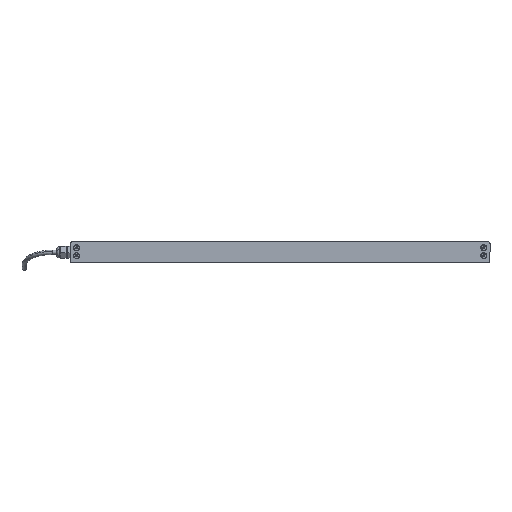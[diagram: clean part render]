
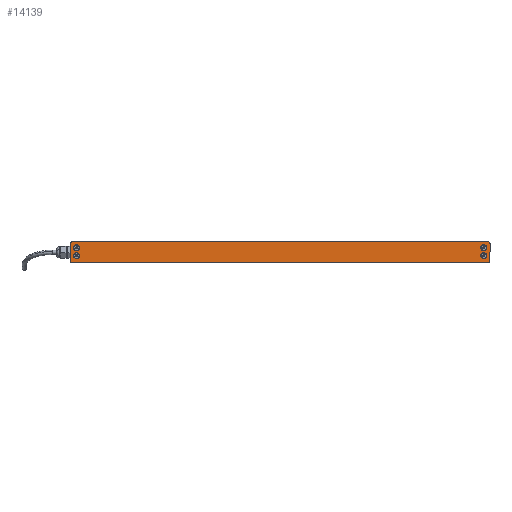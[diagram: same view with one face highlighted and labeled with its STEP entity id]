
A CAD part, left-side view. The second image highlights one B-rep face of the part: STEP entity #14139.
In plain terms, the highlighted planar face has unit normal (-1, 0, 0) as drawn and (0, 0, -1) by its records, which use the part's own axes.
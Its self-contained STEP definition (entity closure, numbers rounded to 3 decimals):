
#9 = DIRECTION ( 'NONE',  ( -1., 0., 0. ) ) ;
#222 = VECTOR ( 'NONE', #1705, 1000. ) ;
#258 = AXIS2_PLACEMENT_3D ( 'NONE', #6369, #10013, #2715 ) ;
#271 = ORIENTED_EDGE ( 'NONE', *, *, #15338, .F. ) ;
#294 = DIRECTION ( 'NONE',  ( 0., 0., -1. ) ) ;
#390 = CIRCLE ( 'NONE', #10517, 5.6 ) ;
#471 = CARTESIAN_POINT ( 'NONE',  ( 381.3, -6.3, 0. ) ) ;
#758 = VERTEX_POINT ( 'NONE', #14701 ) ;
#921 = CARTESIAN_POINT ( 'NONE',  ( 386.9, 8.5, 0. ) ) ;
#925 = CARTESIAN_POINT ( 'NONE',  ( -381.3, 8.5, 0. ) ) ;
#934 = CIRCLE ( 'NONE', #9813, 5.6 ) ;
#937 = CIRCLE ( 'NONE', #2976, 5.6 ) ;
#1113 = VECTOR ( 'NONE', #14749, 1000. ) ;
#1166 = DIRECTION ( 'NONE',  ( -1., 0., 0. ) ) ;
#1249 = AXIS2_PLACEMENT_3D ( 'NONE', #8396, #9441, #1166 ) ;
#1324 = EDGE_CURVE ( 'NONE', #4868, #4088, #7282, .T. ) ;
#1383 = CARTESIAN_POINT ( 'NONE',  ( -389., -20., 0. ) ) ;
#1391 = VERTEX_POINT ( 'NONE', #6051 ) ;
#1397 = CARTESIAN_POINT ( 'NONE',  ( -381.3, -6.3, 0. ) ) ;
#1593 = PLANE ( 'NONE',  #258 ) ;
#1705 = DIRECTION ( 'NONE',  ( -1., 0., 0. ) ) ;
#2215 = EDGE_CURVE ( 'NONE', #3329, #9217, #3301, .T. ) ;
#2432 = ORIENTED_EDGE ( 'NONE', *, *, #1324, .F. ) ;
#2493 = CARTESIAN_POINT ( 'NONE',  ( -393., -16., 0. ) ) ;
#2715 = DIRECTION ( 'NONE',  ( -1., 0., 0. ) ) ;
#2745 = CARTESIAN_POINT ( 'NONE',  ( -389., -20., 0. ) ) ;
#2802 = FACE_BOUND ( 'NONE', #6673, .T. ) ;
#2960 = DIRECTION ( 'NONE',  ( 0., 0., 1. ) ) ;
#2976 = AXIS2_PLACEMENT_3D ( 'NONE', #3209, #12835, #9325 ) ;
#3168 = CARTESIAN_POINT ( 'NONE',  ( -386.9, 8.5, 0. ) ) ;
#3209 = CARTESIAN_POINT ( 'NONE',  ( 381.3, 8.5, 0. ) ) ;
#3301 = CIRCLE ( 'NONE', #1249, 5.6 ) ;
#3312 = DIRECTION ( 'NONE',  ( 0., 0., -1. ) ) ;
#3324 = DIRECTION ( 'NONE',  ( 0., 0., -1. ) ) ;
#3329 = VERTEX_POINT ( 'NONE', #9012 ) ;
#3435 = EDGE_LOOP ( 'NONE', ( #10810, #6072 ) ) ;
#3669 = EDGE_CURVE ( 'NONE', #4088, #4868, #390, .T. ) ;
#3862 = EDGE_CURVE ( 'NONE', #5666, #14111, #11021, .T. ) ;
#3911 = FACE_BOUND ( 'NONE', #3435, .T. ) ;
#4088 = VERTEX_POINT ( 'NONE', #4577 ) ;
#4313 = ORIENTED_EDGE ( 'NONE', *, *, #15268, .F. ) ;
#4336 = CARTESIAN_POINT ( 'NONE',  ( 386.9, -6.3, 0. ) ) ;
#4432 = CARTESIAN_POINT ( 'NONE',  ( 393., 16., 0. ) ) ;
#4577 = CARTESIAN_POINT ( 'NONE',  ( -375.7, 8.5, 0. ) ) ;
#4868 = VERTEX_POINT ( 'NONE', #3168 ) ;
#4894 = CIRCLE ( 'NONE', #9953, 5.6 ) ;
#4904 = CARTESIAN_POINT ( 'NONE',  ( 389., 16., 0. ) ) ;
#4923 = VERTEX_POINT ( 'NONE', #4432 ) ;
#5080 = EDGE_CURVE ( 'NONE', #11075, #12689, #6152, .T. ) ;
#5102 = CARTESIAN_POINT ( 'NONE',  ( -386.9, -6.3, 0. ) ) ;
#5131 = DIRECTION ( 'NONE',  ( -1., 0., 0. ) ) ;
#5154 = DIRECTION ( 'NONE',  ( -1., 0., 0. ) ) ;
#5254 = EDGE_CURVE ( 'NONE', #758, #14043, #11821, .T. ) ;
#5267 = CARTESIAN_POINT ( 'NONE',  ( 381.3, -6.3, 0. ) ) ;
#5305 = VECTOR ( 'NONE', #10521, 1000. ) ;
#5504 = AXIS2_PLACEMENT_3D ( 'NONE', #5267, #10101, #13798 ) ;
#5657 = ORIENTED_EDGE ( 'NONE', *, *, #9227, .F. ) ;
#5664 = CIRCLE ( 'NONE', #8461, 4. ) ;
#5666 = VERTEX_POINT ( 'NONE', #9228 ) ;
#5770 = CARTESIAN_POINT ( 'NONE',  ( 393., -16., 0. ) ) ;
#6020 = CARTESIAN_POINT ( 'NONE',  ( -389., 16., 0. ) ) ;
#6051 = CARTESIAN_POINT ( 'NONE',  ( 389., 20., 0. ) ) ;
#6072 = ORIENTED_EDGE ( 'NONE', *, *, #3862, .F. ) ;
#6137 = VERTEX_POINT ( 'NONE', #4336 ) ;
#6152 = LINE ( 'NONE', #1383, #1113 ) ;
#6229 = EDGE_CURVE ( 'NONE', #14111, #5666, #4894, .T. ) ;
#6347 = CARTESIAN_POINT ( 'NONE',  ( 389., -16., 0. ) ) ;
#6369 = CARTESIAN_POINT ( 'NONE',  ( 389., 16., 0. ) ) ;
#6673 = EDGE_LOOP ( 'NONE', ( #7249, #13520 ) ) ;
#6890 = EDGE_CURVE ( 'NONE', #14349, #758, #12195, .T. ) ;
#7089 = DIRECTION ( 'NONE',  ( 0., 0., -1. ) ) ;
#7249 = ORIENTED_EDGE ( 'NONE', *, *, #2215, .F. ) ;
#7282 = CIRCLE ( 'NONE', #9329, 5.6 ) ;
#7284 = EDGE_CURVE ( 'NONE', #14043, #11075, #5664, .T. ) ;
#7432 = AXIS2_PLACEMENT_3D ( 'NONE', #6020, #15582, #9 ) ;
#7641 = FACE_BOUND ( 'NONE', #10868, .T. ) ;
#7780 = AXIS2_PLACEMENT_3D ( 'NONE', #6347, #9350, #14134 ) ;
#7902 = ORIENTED_EDGE ( 'NONE', *, *, #5254, .F. ) ;
#8270 = EDGE_CURVE ( 'NONE', #1391, #14349, #13735, .T. ) ;
#8396 = CARTESIAN_POINT ( 'NONE',  ( 381.3, 8.5, 0. ) ) ;
#8404 = EDGE_LOOP ( 'NONE', ( #14861, #5657, #4313, #13052, #14548, #7902, #12192, #10779 ) ) ;
#8422 = CARTESIAN_POINT ( 'NONE',  ( -389., 20., 0. ) ) ;
#8461 = AXIS2_PLACEMENT_3D ( 'NONE', #9648, #2960, #11117 ) ;
#9012 = CARTESIAN_POINT ( 'NONE',  ( 375.7, 8.5, 0. ) ) ;
#9217 = VERTEX_POINT ( 'NONE', #921 ) ;
#9227 = EDGE_CURVE ( 'NONE', #14690, #4923, #15174, .T. ) ;
#9228 = CARTESIAN_POINT ( 'NONE',  ( -375.7, -6.3, 0. ) ) ;
#9261 = DIRECTION ( 'NONE',  ( -1., 0., 0. ) ) ;
#9325 = DIRECTION ( 'NONE',  ( -1., 0., 0. ) ) ;
#9329 = AXIS2_PLACEMENT_3D ( 'NONE', #10567, #7089, #12034 ) ;
#9350 = DIRECTION ( 'NONE',  ( 0., 0., 1. ) ) ;
#9441 = DIRECTION ( 'NONE',  ( 0., 0., -1. ) ) ;
#9451 = CARTESIAN_POINT ( 'NONE',  ( 393., -16., 0. ) ) ;
#9648 = CARTESIAN_POINT ( 'NONE',  ( -389., -16., 0. ) ) ;
#9740 = DIRECTION ( 'NONE',  ( 0., 0., 1. ) ) ;
#9813 = AXIS2_PLACEMENT_3D ( 'NONE', #471, #3312, #5154 ) ;
#9940 = ORIENTED_EDGE ( 'NONE', *, *, #11733, .F. ) ;
#9953 = AXIS2_PLACEMENT_3D ( 'NONE', #10286, #12931, #9261 ) ;
#10013 = DIRECTION ( 'NONE',  ( 0., 0., -1. ) ) ;
#10101 = DIRECTION ( 'NONE',  ( 0., 0., -1. ) ) ;
#10286 = CARTESIAN_POINT ( 'NONE',  ( -381.3, -6.3, 0. ) ) ;
#10517 = AXIS2_PLACEMENT_3D ( 'NONE', #925, #3324, #12952 ) ;
#10521 = DIRECTION ( 'NONE',  ( 0., 1., 0. ) ) ;
#10567 = CARTESIAN_POINT ( 'NONE',  ( -381.3, 8.5, 0. ) ) ;
#10779 = ORIENTED_EDGE ( 'NONE', *, *, #8270, .F. ) ;
#10810 = ORIENTED_EDGE ( 'NONE', *, *, #6229, .F. ) ;
#10868 = EDGE_LOOP ( 'NONE', ( #2432, #11169 ) ) ;
#10985 = DIRECTION ( 'NONE',  ( -1., 0., 0. ) ) ;
#11021 = CIRCLE ( 'NONE', #11530, 5.6 ) ;
#11075 = VERTEX_POINT ( 'NONE', #2745 ) ;
#11117 = DIRECTION ( 'NONE',  ( -1., 0., 0. ) ) ;
#11169 = ORIENTED_EDGE ( 'NONE', *, *, #3669, .F. ) ;
#11181 = EDGE_CURVE ( 'NONE', #4923, #1391, #14569, .T. ) ;
#11530 = AXIS2_PLACEMENT_3D ( 'NONE', #1397, #294, #5131 ) ;
#11733 = EDGE_CURVE ( 'NONE', #12613, #6137, #12296, .T. ) ;
#11821 = LINE ( 'NONE', #13081, #12224 ) ;
#11822 = EDGE_CURVE ( 'NONE', #9217, #3329, #937, .T. ) ;
#12034 = DIRECTION ( 'NONE',  ( -1., 0., 0. ) ) ;
#12058 = CIRCLE ( 'NONE', #7780, 4. ) ;
#12192 = ORIENTED_EDGE ( 'NONE', *, *, #6890, .F. ) ;
#12195 = CIRCLE ( 'NONE', #7432, 4. ) ;
#12224 = VECTOR ( 'NONE', #13000, 1000. ) ;
#12296 = CIRCLE ( 'NONE', #5504, 5.6 ) ;
#12437 = FACE_OUTER_BOUND ( 'NONE', #8404, .T. ) ;
#12547 = CARTESIAN_POINT ( 'NONE',  ( -389., 20., 0. ) ) ;
#12613 = VERTEX_POINT ( 'NONE', #14611 ) ;
#12689 = VERTEX_POINT ( 'NONE', #14843 ) ;
#12835 = DIRECTION ( 'NONE',  ( 0., 0., -1. ) ) ;
#12931 = DIRECTION ( 'NONE',  ( 0., 0., -1. ) ) ;
#12952 = DIRECTION ( 'NONE',  ( -1., 0., 0. ) ) ;
#13000 = DIRECTION ( 'NONE',  ( 0., -1., 0. ) ) ;
#13052 = ORIENTED_EDGE ( 'NONE', *, *, #5080, .F. ) ;
#13081 = CARTESIAN_POINT ( 'NONE',  ( -393., -16., 0. ) ) ;
#13520 = ORIENTED_EDGE ( 'NONE', *, *, #11822, .F. ) ;
#13735 = LINE ( 'NONE', #12547, #222 ) ;
#13798 = DIRECTION ( 'NONE',  ( -1., 0., 0. ) ) ;
#14043 = VERTEX_POINT ( 'NONE', #2493 ) ;
#14111 = VERTEX_POINT ( 'NONE', #5102 ) ;
#14134 = DIRECTION ( 'NONE',  ( 1., 0., 0. ) ) ;
#14139 = ADVANCED_FACE ( 'NONE', ( #2802, #14732, #7641, #3911, #12437 ), #1593, .T. ) ;
#14349 = VERTEX_POINT ( 'NONE', #8422 ) ;
#14548 = ORIENTED_EDGE ( 'NONE', *, *, #7284, .F. ) ;
#14569 = CIRCLE ( 'NONE', #15335, 4. ) ;
#14611 = CARTESIAN_POINT ( 'NONE',  ( 375.7, -6.3, 0. ) ) ;
#14690 = VERTEX_POINT ( 'NONE', #9451 ) ;
#14701 = CARTESIAN_POINT ( 'NONE',  ( -393., 16., 0. ) ) ;
#14732 = FACE_BOUND ( 'NONE', #14891, .T. ) ;
#14749 = DIRECTION ( 'NONE',  ( 1., 0., 0. ) ) ;
#14843 = CARTESIAN_POINT ( 'NONE',  ( 389., -20., 0. ) ) ;
#14861 = ORIENTED_EDGE ( 'NONE', *, *, #11181, .F. ) ;
#14891 = EDGE_LOOP ( 'NONE', ( #9940, #271 ) ) ;
#15174 = LINE ( 'NONE', #5770, #5305 ) ;
#15268 = EDGE_CURVE ( 'NONE', #12689, #14690, #12058, .T. ) ;
#15335 = AXIS2_PLACEMENT_3D ( 'NONE', #4904, #9740, #10985 ) ;
#15338 = EDGE_CURVE ( 'NONE', #6137, #12613, #934, .T. ) ;
#15582 = DIRECTION ( 'NONE',  ( 0., 0., 1. ) ) ;
